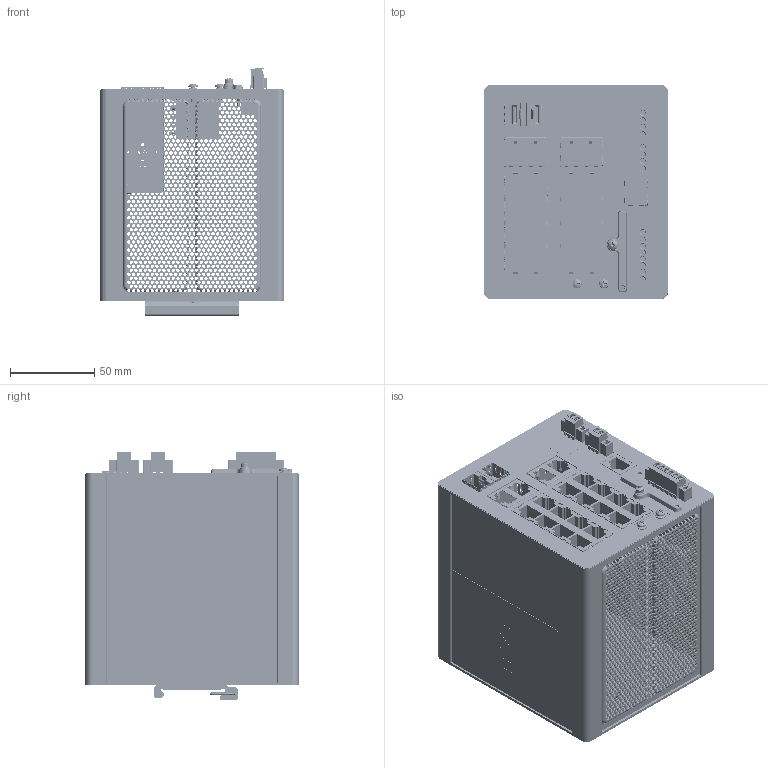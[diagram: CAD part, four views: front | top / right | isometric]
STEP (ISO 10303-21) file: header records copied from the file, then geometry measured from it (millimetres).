
FILE_DESCRIPTION (( 'STEP AP214' ), '1' );
FILE_NAME ('IE-3100-18T2C-E.STEP', '2022-10-17T20:06:32', ( '' ), ( '' ), 'SwSTEP 2.0', 'SolidWorks 2015', '' );
FILE_SCHEMA (( 'AUTOMOTIVE_DESIGN' ));
Length unit declared in the file: millimetre
Products named in the file (1): IE-3100-18T2C-E
Bounding box: 109.22 x 127.01 x 147.36 mm (x, y, z)
Surface area: 290892.6 mm2 (no closed solid volume)
Topology: 0 solids, 124 shells, 14068 faces, 40724 edges, 26421 vertices
Faces by surface type: cylinder 7743, plane 4684, bspline 1188, cone 439, torus 14
Entity records: 746729 total; most frequent: CARTESIAN_POINT 213816, ORIENTED_EDGE 81253, DIRECTION 73924, EDGE_CURVE 40717, AXIS2_PLACEMENT_3D 26640, VERTEX_POINT 26420, LINE 20644, VECTOR 20644
